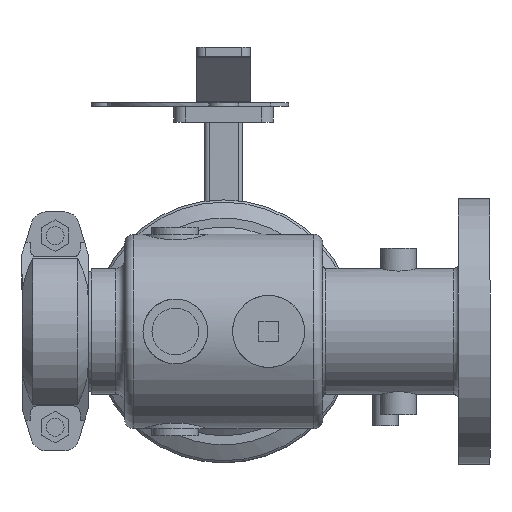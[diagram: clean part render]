
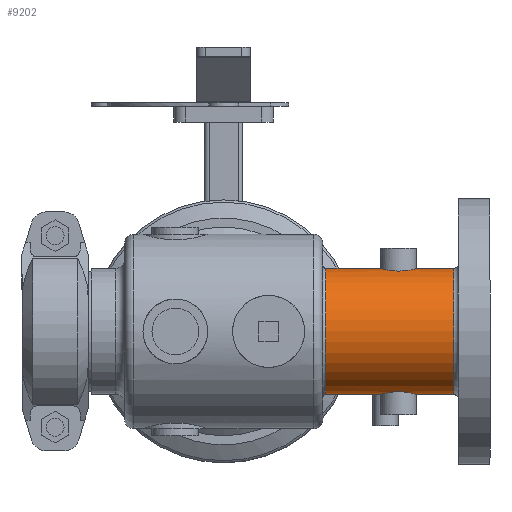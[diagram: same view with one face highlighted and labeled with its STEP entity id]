
A CAD part, front view. The second image highlights one B-rep face of the part: STEP entity #9202.
In plain terms, the highlighted cylindrical face has radius 44.45 mm (diameter 88.9 mm), a full revolution.
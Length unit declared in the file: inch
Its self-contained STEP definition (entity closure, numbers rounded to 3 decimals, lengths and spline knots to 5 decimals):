
#463=FACE_BOUND('',#1211,.T.);
#464=FACE_BOUND('',#1212,.T.);
#578=B_SPLINE_CURVE_WITH_KNOTS('',3,(#14873,#14874,#14875,#14876,#14877,
#14878,#14879,#14880,#14881,#14882,#14883,#14884,#14885,#14886,#14887,#14888,
#14889,#14890,#14891,#14892,#14893,#14894,#14895,#14896,#14897,#14898),
 .UNSPECIFIED.,.F.,.F.,(4,2,2,2,2,2,2,2,2,2,2,2,4),(0.,0.48136,
0.96271,1.44395,1.92519,2.40643,2.88767,
3.36903,3.85039,4.33175,4.8131,5.29434,
5.77558),.UNSPECIFIED.);
#579=B_SPLINE_CURVE_WITH_KNOTS('',3,(#14899,#14900,#14901,#14902,#14903,
#14904,#14905,#14906,#14907,#14908),.UNSPECIFIED.,.F.,.F.,(4,2,2,2,4),(5.77558,
6.25682,6.73806,7.21942,7.70078),
 .UNSPECIFIED.);
#580=B_SPLINE_CURVE_WITH_KNOTS('',3,(#14911,#14912,#14913,#14914,#14915,
#14916,#14917,#14918,#14919,#14920),.UNSPECIFIED.,.F.,.F.,(4,2,2,2,4),(0.,
0.48136,0.96271,1.44395,1.92519),
 .UNSPECIFIED.);
#581=B_SPLINE_CURVE_WITH_KNOTS('',3,(#14921,#14922,#14923,#14924,#14925,
#14926,#14927,#14928,#14929,#14930,#14931,#14932,#14933,#14934,#14935,#14936,
#14937,#14938,#14939,#14940,#14941,#14942,#14943,#14944,#14945,#14946),
 .UNSPECIFIED.,.F.,.F.,(4,2,2,2,2,2,2,2,2,2,2,2,4),(1.92519,2.40643,
2.88767,3.36903,3.85039,4.33175,4.8131,
5.29434,5.77558,6.25682,6.73806,7.21942,
7.70078),.UNSPECIFIED.);
#670=FACE_OUTER_BOUND('',#1210,.T.);
#1210=EDGE_LOOP('',(#6143,#6144,#6145,#6146,#6147,#6148,#6149,#6150));
#1211=EDGE_LOOP('',(#6151,#6152));
#1212=EDGE_LOOP('',(#6153,#6154));
#1835=CIRCLE('',#9988,1.75);
#1837=CIRCLE('',#9990,1.75);
#1838=CIRCLE('',#9991,1.75);
#1841=CIRCLE('',#9996,1.75);
#1842=CIRCLE('',#9997,1.75);
#1843=CIRCLE('',#9998,1.75);
#2342=LINE('',#14870,#3017);
#3017=VECTOR('',#11349,1.75);
#3733=VERTEX_POINT('',#14689);
#3734=VERTEX_POINT('',#14690);
#3735=VERTEX_POINT('',#14693);
#3740=VERTEX_POINT('',#14739);
#3741=VERTEX_POINT('',#14741);
#3742=VERTEX_POINT('',#14743);
#3770=VERTEX_POINT('',#14871);
#3771=VERTEX_POINT('',#14872);
#3772=VERTEX_POINT('',#14909);
#3773=VERTEX_POINT('',#14910);
#4647=EDGE_CURVE('',#3733,#3734,#1835,.T.);
#4649=EDGE_CURVE('',#3734,#3735,#1837,.T.);
#4650=EDGE_CURVE('',#3735,#3733,#1838,.T.);
#4655=EDGE_CURVE('',#3741,#3740,#1841,.T.);
#4656=EDGE_CURVE('',#3742,#3741,#1842,.T.);
#4657=EDGE_CURVE('',#3740,#3742,#1843,.T.);
#4698=EDGE_CURVE('',#3735,#3742,#2342,.T.);
#4699=EDGE_CURVE('',#3770,#3771,#578,.T.);
#4700=EDGE_CURVE('',#3771,#3770,#579,.T.);
#4701=EDGE_CURVE('',#3772,#3773,#580,.T.);
#4702=EDGE_CURVE('',#3773,#3772,#581,.T.);
#6143=ORIENTED_EDGE('',*,*,#4647,.F.);
#6144=ORIENTED_EDGE('',*,*,#4650,.F.);
#6145=ORIENTED_EDGE('',*,*,#4698,.T.);
#6146=ORIENTED_EDGE('',*,*,#4656,.T.);
#6147=ORIENTED_EDGE('',*,*,#4655,.T.);
#6148=ORIENTED_EDGE('',*,*,#4657,.T.);
#6149=ORIENTED_EDGE('',*,*,#4698,.F.);
#6150=ORIENTED_EDGE('',*,*,#4649,.F.);
#6151=ORIENTED_EDGE('',*,*,#4699,.T.);
#6152=ORIENTED_EDGE('',*,*,#4700,.T.);
#6153=ORIENTED_EDGE('',*,*,#4701,.T.);
#6154=ORIENTED_EDGE('',*,*,#4702,.T.);
#8464=CYLINDRICAL_SURFACE('',#10050,1.75);
#9202=ADVANCED_FACE('',(#670,#463,#464),#8464,.T.);
#9988=AXIS2_PLACEMENT_3D('',#14691,#11214,#11215);
#9990=AXIS2_PLACEMENT_3D('',#14694,#11218,#11219);
#9991=AXIS2_PLACEMENT_3D('',#14695,#11220,#11221);
#9996=AXIS2_PLACEMENT_3D('',#14742,#11230,#11231);
#9997=AXIS2_PLACEMENT_3D('',#14744,#11232,#11233);
#9998=AXIS2_PLACEMENT_3D('',#14745,#11234,#11235);
#10050=AXIS2_PLACEMENT_3D('',#14869,#11347,#11348);
#11214=DIRECTION('center_axis',(1.,0.,0.));
#11215=DIRECTION('ref_axis',(0.,0.,-1.));
#11218=DIRECTION('center_axis',(1.,0.,0.));
#11219=DIRECTION('ref_axis',(0.,0.,-1.));
#11220=DIRECTION('center_axis',(1.,0.,0.));
#11221=DIRECTION('ref_axis',(0.,0.,-1.));
#11230=DIRECTION('center_axis',(1.,0.,0.));
#11231=DIRECTION('ref_axis',(0.,0.,-1.));
#11232=DIRECTION('center_axis',(1.,0.,0.));
#11233=DIRECTION('ref_axis',(0.,0.,-1.));
#11234=DIRECTION('center_axis',(1.,0.,0.));
#11235=DIRECTION('ref_axis',(0.,0.,-1.));
#11347=DIRECTION('center_axis',(1.,0.,0.));
#11348=DIRECTION('ref_axis',(0.,1.,0.));
#11349=DIRECTION('',(-1.,0.,0.));
#14689=CARTESIAN_POINT('',(6.39,1.75,0.));
#14690=CARTESIAN_POINT('',(6.39,0.,1.75));
#14691=CARTESIAN_POINT('Origin',(6.39,0.,0.));
#14693=CARTESIAN_POINT('',(6.39,-1.75,0.));
#14694=CARTESIAN_POINT('Origin',(6.39,0.,0.));
#14695=CARTESIAN_POINT('Origin',(6.39,0.,0.));
#14739=CARTESIAN_POINT('',(2.84,0.,1.75));
#14741=CARTESIAN_POINT('',(2.84,1.75,0.));
#14742=CARTESIAN_POINT('Origin',(2.84,0.,0.));
#14743=CARTESIAN_POINT('',(2.84,-1.75,0.));
#14744=CARTESIAN_POINT('Origin',(2.84,0.,0.));
#14745=CARTESIAN_POINT('Origin',(2.84,0.,0.));
#14869=CARTESIAN_POINT('Origin',(4.945,0.,0.));
#14870=CARTESIAN_POINT('',(4.945,-1.75,0.));
#14871=CARTESIAN_POINT('',(4.86,-0.5,1.67705));
#14872=CARTESIAN_POINT('',(5.36,0.,1.75));
#14873=CARTESIAN_POINT('Ctrl Pts',(4.86,-0.5,1.67705));
#14874=CARTESIAN_POINT('Ctrl Pts',(4.79683,-0.5,1.67705));
#14875=CARTESIAN_POINT('Ctrl Pts',(4.72971,-0.4873,1.68099));
#14876=CARTESIAN_POINT('Ctrl Pts',(4.60663,-0.43617,
1.69498));
#14877=CARTESIAN_POINT('Ctrl Pts',(4.55065,-0.39775,
1.7048));
#14878=CARTESIAN_POINT('Ctrl Pts',(4.46226,-0.30936,
1.72303));
#14879=CARTESIAN_POINT('Ctrl Pts',(4.42383,-0.25337,
1.73267));
#14880=CARTESIAN_POINT('Ctrl Pts',(4.37269,-0.13028,
1.74624));
#14881=CARTESIAN_POINT('Ctrl Pts',(4.36,-0.06315,1.75));
#14882=CARTESIAN_POINT('Ctrl Pts',(4.36,0.06315,1.75));
#14883=CARTESIAN_POINT('Ctrl Pts',(4.37269,0.13028,1.74624));
#14884=CARTESIAN_POINT('Ctrl Pts',(4.42383,0.25337,1.73267));
#14885=CARTESIAN_POINT('Ctrl Pts',(4.46226,0.30936,1.72303));
#14886=CARTESIAN_POINT('Ctrl Pts',(4.55065,0.39775,1.7048));
#14887=CARTESIAN_POINT('Ctrl Pts',(4.60663,0.43617,1.69498));
#14888=CARTESIAN_POINT('Ctrl Pts',(4.72971,0.4873,1.68099));
#14889=CARTESIAN_POINT('Ctrl Pts',(4.79683,0.5,1.67705));
#14890=CARTESIAN_POINT('Ctrl Pts',(4.92317,0.5,1.67705));
#14891=CARTESIAN_POINT('Ctrl Pts',(4.99029,0.4873,1.68099));
#14892=CARTESIAN_POINT('Ctrl Pts',(5.11337,0.43617,1.69498));
#14893=CARTESIAN_POINT('Ctrl Pts',(5.16935,0.39775,1.7048));
#14894=CARTESIAN_POINT('Ctrl Pts',(5.25774,0.30936,1.72303));
#14895=CARTESIAN_POINT('Ctrl Pts',(5.29617,0.25337,1.73267));
#14896=CARTESIAN_POINT('Ctrl Pts',(5.34731,0.13028,1.74624));
#14897=CARTESIAN_POINT('Ctrl Pts',(5.36,0.06315,1.75));
#14898=CARTESIAN_POINT('Ctrl Pts',(5.36,0.,1.75));
#14899=CARTESIAN_POINT('Ctrl Pts',(5.36,0.,1.75));
#14900=CARTESIAN_POINT('Ctrl Pts',(5.36,-0.06315,1.75));
#14901=CARTESIAN_POINT('Ctrl Pts',(5.34731,-0.13028,
1.74624));
#14902=CARTESIAN_POINT('Ctrl Pts',(5.29617,-0.25337,
1.73267));
#14903=CARTESIAN_POINT('Ctrl Pts',(5.25774,-0.30936,
1.72303));
#14904=CARTESIAN_POINT('Ctrl Pts',(5.16935,-0.39775,
1.7048));
#14905=CARTESIAN_POINT('Ctrl Pts',(5.11337,-0.43617,
1.69498));
#14906=CARTESIAN_POINT('Ctrl Pts',(4.99029,-0.4873,
1.68099));
#14907=CARTESIAN_POINT('Ctrl Pts',(4.92317,-0.5,1.67705));
#14908=CARTESIAN_POINT('Ctrl Pts',(4.86,-0.5,1.67705));
#14909=CARTESIAN_POINT('',(4.86,-0.5,-1.67705));
#14910=CARTESIAN_POINT('',(5.36,0.,-1.75));
#14911=CARTESIAN_POINT('Ctrl Pts',(4.86,-0.5,-1.67705));
#14912=CARTESIAN_POINT('Ctrl Pts',(4.92317,-0.5,-1.67705));
#14913=CARTESIAN_POINT('Ctrl Pts',(4.99029,-0.4873,
-1.68099));
#14914=CARTESIAN_POINT('Ctrl Pts',(5.11337,-0.43617,
-1.69498));
#14915=CARTESIAN_POINT('Ctrl Pts',(5.16935,-0.39775,
-1.7048));
#14916=CARTESIAN_POINT('Ctrl Pts',(5.25774,-0.30936,
-1.72303));
#14917=CARTESIAN_POINT('Ctrl Pts',(5.29617,-0.25337,
-1.73267));
#14918=CARTESIAN_POINT('Ctrl Pts',(5.34731,-0.13028,
-1.74624));
#14919=CARTESIAN_POINT('Ctrl Pts',(5.36,-0.06315,-1.75));
#14920=CARTESIAN_POINT('Ctrl Pts',(5.36,0.,-1.75));
#14921=CARTESIAN_POINT('Ctrl Pts',(5.36,0.,-1.75));
#14922=CARTESIAN_POINT('Ctrl Pts',(5.36,0.06315,-1.75));
#14923=CARTESIAN_POINT('Ctrl Pts',(5.34731,0.13028,-1.74624));
#14924=CARTESIAN_POINT('Ctrl Pts',(5.29617,0.25337,-1.73267));
#14925=CARTESIAN_POINT('Ctrl Pts',(5.25774,0.30936,-1.72303));
#14926=CARTESIAN_POINT('Ctrl Pts',(5.16935,0.39775,-1.7048));
#14927=CARTESIAN_POINT('Ctrl Pts',(5.11337,0.43617,-1.69498));
#14928=CARTESIAN_POINT('Ctrl Pts',(4.99029,0.4873,-1.68099));
#14929=CARTESIAN_POINT('Ctrl Pts',(4.92317,0.5,-1.67705));
#14930=CARTESIAN_POINT('Ctrl Pts',(4.79683,0.5,-1.67705));
#14931=CARTESIAN_POINT('Ctrl Pts',(4.72971,0.4873,-1.68099));
#14932=CARTESIAN_POINT('Ctrl Pts',(4.60663,0.43617,-1.69498));
#14933=CARTESIAN_POINT('Ctrl Pts',(4.55065,0.39775,-1.7048));
#14934=CARTESIAN_POINT('Ctrl Pts',(4.46226,0.30936,-1.72303));
#14935=CARTESIAN_POINT('Ctrl Pts',(4.42383,0.25337,-1.73267));
#14936=CARTESIAN_POINT('Ctrl Pts',(4.37269,0.13028,-1.74624));
#14937=CARTESIAN_POINT('Ctrl Pts',(4.36,0.06315,-1.75));
#14938=CARTESIAN_POINT('Ctrl Pts',(4.36,-0.06315,-1.75));
#14939=CARTESIAN_POINT('Ctrl Pts',(4.37269,-0.13028,
-1.74624));
#14940=CARTESIAN_POINT('Ctrl Pts',(4.42383,-0.25337,
-1.73267));
#14941=CARTESIAN_POINT('Ctrl Pts',(4.46226,-0.30936,
-1.72303));
#14942=CARTESIAN_POINT('Ctrl Pts',(4.55065,-0.39775,
-1.7048));
#14943=CARTESIAN_POINT('Ctrl Pts',(4.60663,-0.43617,
-1.69498));
#14944=CARTESIAN_POINT('Ctrl Pts',(4.72971,-0.4873,-1.68099));
#14945=CARTESIAN_POINT('Ctrl Pts',(4.79683,-0.5,-1.67705));
#14946=CARTESIAN_POINT('Ctrl Pts',(4.86,-0.5,-1.67705));
